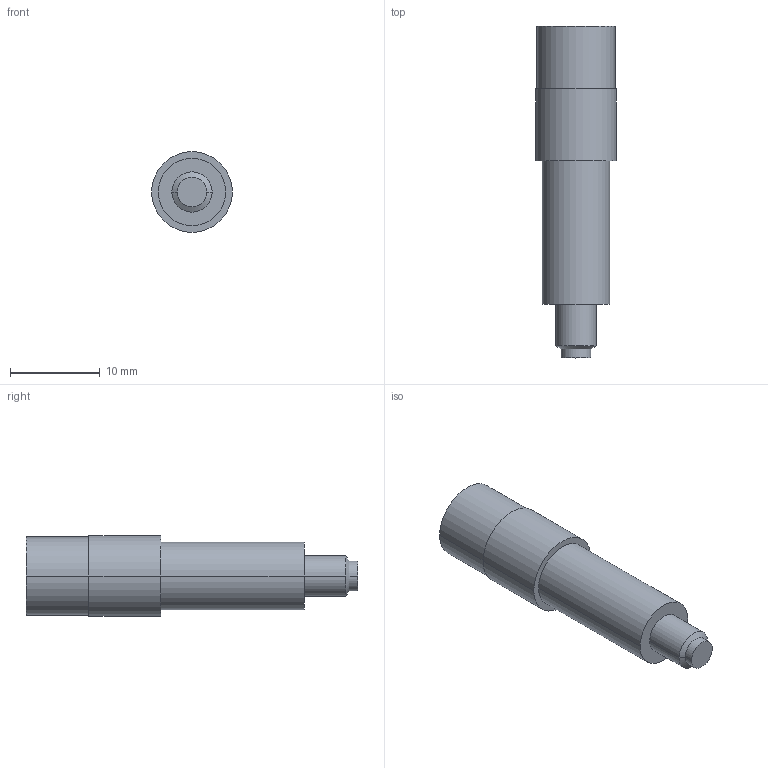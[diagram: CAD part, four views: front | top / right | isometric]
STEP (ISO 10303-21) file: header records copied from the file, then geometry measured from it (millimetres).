
FILE_DESCRIPTION(('Creo Elements/Direct Modeling STEP Export'),'2;1');
FILE_NAME('SCX_CPM.stp','2014-01-27T11:31:55',(''),(''),'Creo Elements/Direct Modeling STEP processor for AP214 (Solid Model)','Creo Elements/Direct Modeling 18.0B 02-Dec-2011 (C) Parametric Technology GmbH','');
FILE_SCHEMA(('AUTOMOTIVE_DESIGN { 1 0 10303 214 1 1 1 1 }'));
Length unit declared in the file: millimetre
Products named in the file (1): SCX_CPM
Bounding box: 9 x 37 x 9 mm (x, y, z)
Volume: 1477.4 mm3; surface area: 1196.4 mm2
Topology: 1 solids, 1 shells, 26 faces, 52 edges, 31 vertices
Faces by surface type: cylinder 14, cone 6, plane 6
Entity records: 687 total; most frequent: DIRECTION 104, ORIENTED_EDGE 100, CARTESIAN_POINT 93, EDGE_CURVE 50, AXIS2_PLACEMENT_3D 42, VERTEX_POINT 31, EDGE_LOOP 31, FACE_OUTER_BOUND 26
